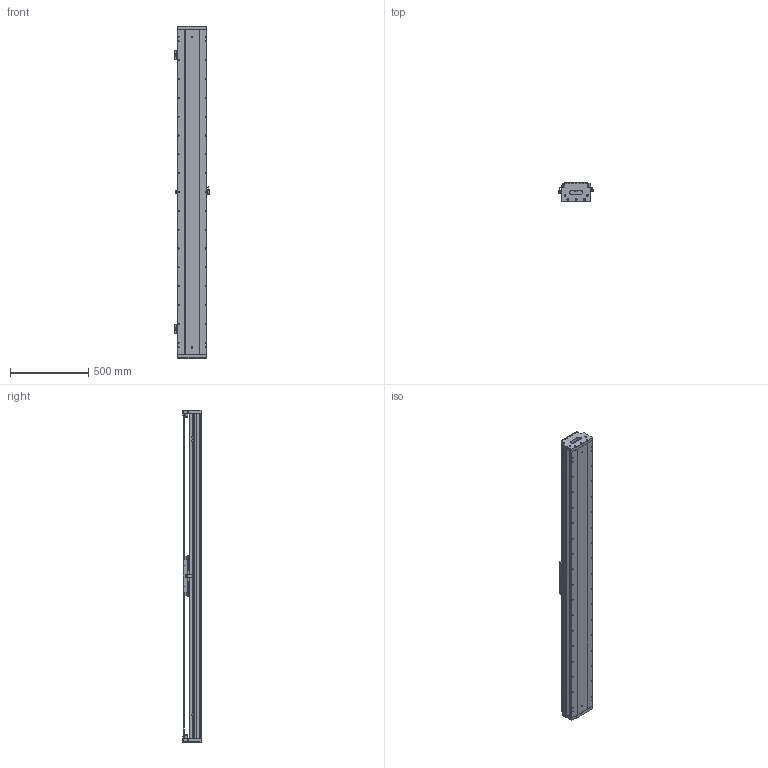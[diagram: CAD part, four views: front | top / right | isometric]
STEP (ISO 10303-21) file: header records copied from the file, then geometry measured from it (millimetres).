
FILE_DESCRIPTION (( 'STEP AP203' ), '1' );
FILE_NAME ('DKW188-C3-W090(T1740-L005-0.2).STEP', '2021-09-14T02:55:43', ( '微软用户' ), ( '微软中国' ), 'SwSTEP 2.0', 'SolidWorks 2018', '' );
FILE_SCHEMA (( 'CONFIG_CONTROL_DESIGN' ));
Length unit declared in the file: millimetre
Products named in the file (25): RUS嫖掑郪璃; pm-y65; DKW168-HXJ-00 遣喳砎蝶; DKW188-C3-W090(T1740-L005-0.2); 10980-0001-003-00 嫖萇羲壽嘐隅釱; 11899-0001-004-00 詩湍嶺輸; 11899-0001-001-00 菁釱; 嫖萇羲壽蚾饜极; 11899-0001-005-00 詩湍揤輸; SSR25-DG; 嫖萇羲壽蚾饜极A; 11899-0001-006-00 嶺輸菜輸; SSR25XW1UUC1; DKW-SG-GYP-H-00 嫖萇覜茼え; 砎蝶猾沭; CKMA01-W090-TRLxxx; DKW168-RU-DTJ-00 RU2黍杅芛盓殤; 11899-0001-002-00 詩湍裔啣; 11500-0001-010-00 賑怢啣; RUS嫖掑喜; DKW188 单轴模组-拉钢带组件; CKM03-W090-C1C2-TP-0.2 珨极萇儂; Ru2; DKW168-HYB-00 賑輸揤啣; 11899-0001-003-00 傷啣
Assembly tree (40 placements, depth 3):
  DKW188-C3-W090(T1740-L005-0.2)
    11899-0001-001-00 菁釱
    SSR25-DG  x2
    SSR25XW1UUC1  x4
    CKMA01-W090-TRLxxx
    11500-0001-010-00 賑怢啣
    CKM03-W090-C1C2-TP-0.2 珨极萇儂
    DKW188 单轴模组-拉钢带组件
      11899-0001-003-00 傷啣  x2
      DKW168-HXJ-00 遣喳砎蝶  x4
      11899-0001-004-00 詩湍嶺輸  x2
      11899-0001-005-00 詩湍揤輸  x2
      11899-0001-006-00 嶺輸菜輸  x2
      砎蝶猾沭  x2
      11899-0001-002-00 詩湍裔啣
    DKW168-HYB-00 賑輸揤啣  x2
    嫖萇羲壽蚾饜极
      pm-y65  x2
      10980-0001-003-00 嫖萇羲壽嘐隅釱
    嫖萇羲壽蚾饜极A
      pm-y65
      10980-0001-003-00 嫖萇羲壽嘐隅釱
    DKW-SG-GYP-H-00 嫖萇覜茼え
    DKW168-RU-DTJ-00 RU2黍杅芛盓殤
    RUS嫖掑郪璃
      RUS嫖掑喜
      Ru2
Bounding box: 222.1 x 120 x 2116 mm (x, y, z)
Volume: 16920783.2 mm3; surface area: 4375279.8 mm2
Topology: 39 solids, 88 shells, 4484 faces, 11655 edges, 7396 vertices
Faces by surface type: plane 2123, cylinder 1596, cone 490, bspline 275
Entity records: 118010 total; most frequent: CARTESIAN_POINT 40033, ORIENTED_EDGE 15487, DIRECTION 15068, EDGE_CURVE 7784, AXIS2_PLACEMENT_3D 5175, VERTEX_POINT 5093, LINE 4718, VECTOR 4718
